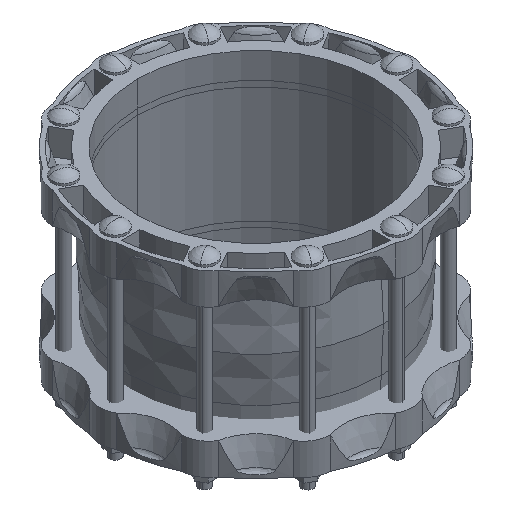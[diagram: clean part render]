
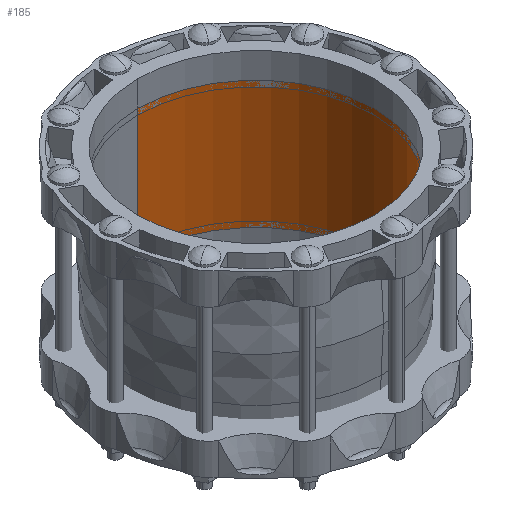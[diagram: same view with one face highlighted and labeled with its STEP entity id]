
A CAD part, isometric view. The second image highlights one B-rep face of the part: STEP entity #185.
In plain terms, the highlighted cylindrical face has radius 165 mm (diameter 330 mm), a partial arc.
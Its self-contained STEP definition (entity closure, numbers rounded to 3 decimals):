
#7=CARTESIAN_POINT('',(0.,0.,-89.));
#8=DIRECTION('',(0.,0.,-1.));
#9=DIRECTION('',(0.,1.,0.));
#10=AXIS2_PLACEMENT_3D('',#7,#8,#9);
#17=DIRECTION('',(0.,0.,-1.));
#18=VECTOR('',#17,178.);
#19=CARTESIAN_POINT('',(0.,165.,89.));
#20=LINE('',#19,#18);
#21=CARTESIAN_POINT('',(0.,0.,89.));
#22=DIRECTION('',(0.,0.,-1.));
#23=DIRECTION('',(0.,1.,0.));
#24=AXIS2_PLACEMENT_3D('',#21,#22,#23);
#26=DIRECTION('',(0.,0.,-1.));
#27=VECTOR('',#26,178.);
#28=CARTESIAN_POINT('',(0.,-165.,89.));
#29=LINE('',#28,#27);
#118=CARTESIAN_POINT('',(0.,165.,89.));
#119=CARTESIAN_POINT('',(0.,165.,-89.));
#120=VERTEX_POINT('',#118);
#121=VERTEX_POINT('',#119);
#128=CARTESIAN_POINT('',(0.,-165.,89.));
#129=CARTESIAN_POINT('',(0.,-165.,-89.));
#130=VERTEX_POINT('',#128);
#131=VERTEX_POINT('',#129);
#173=CARTESIAN_POINT('',(0.,0.,-97.9));
#174=DIRECTION('',(0.,0.,1.));
#175=DIRECTION('',(0.,1.,0.));
#176=AXIS2_PLACEMENT_3D('',#173,#174,#175);
#177=CYLINDRICAL_SURFACE('',#176,165.);
#178=ORIENTED_EDGE('',*,*,#163,.F.);
#180=ORIENTED_EDGE('',*,*,#179,.T.);
#181=ORIENTED_EDGE('',*,*,#166,.T.);
#182=ORIENTED_EDGE('',*,*,#153,.F.);
#183=EDGE_LOOP('',(#178,#180,#181,#182));
#184=FACE_OUTER_BOUND('',#183,.F.);
#185=ADVANCED_FACE('',(#184),#177,.F.);
#11=CIRCLE('',#10,165.);
#25=CIRCLE('',#24,165.);
#153=EDGE_CURVE('',#121,#131,#11,.T.);
#163=EDGE_CURVE('',#120,#121,#20,.T.);
#166=EDGE_CURVE('',#130,#131,#29,.T.);
#179=EDGE_CURVE('',#120,#130,#25,.T.);
